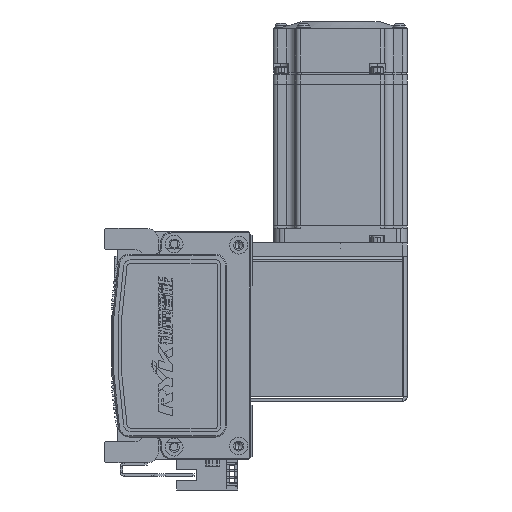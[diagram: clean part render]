
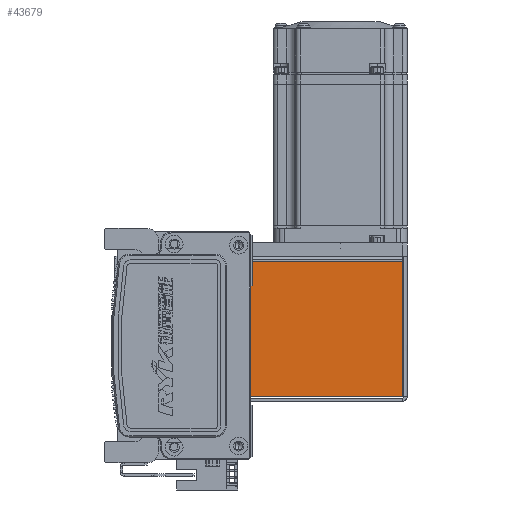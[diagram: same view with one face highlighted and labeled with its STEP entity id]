
A CAD part, left-side view. The second image highlights one B-rep face of the part: STEP entity #43679.
In plain terms, the highlighted planar face has unit normal (-1, 0, 0) as drawn and (0, 0, 1) by its records, which use the part's own axes.
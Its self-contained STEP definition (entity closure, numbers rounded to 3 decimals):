
#499 = VERTEX_POINT ( 'NONE', #4726 ) ;
#2811 = CARTESIAN_POINT ( 'NONE',  ( 0., 0., 35. ) ) ;
#2926 = CARTESIAN_POINT ( 'NONE',  ( 0., 72.5, 35. ) ) ;
#3205 = DIRECTION ( 'NONE',  ( 0., 1., 0. ) ) ;
#4726 = CARTESIAN_POINT ( 'NONE',  ( 30.263, 72.5, 35. ) ) ;
#5570 = LINE ( 'NONE', #2926, #41653 ) ;
#7915 = DIRECTION ( 'NONE',  ( -1., 0., 0. ) ) ;
#9530 = ORIENTED_EDGE ( 'NONE', *, *, #11408, .F. ) ;
#9728 = DIRECTION ( 'NONE',  ( 0., 1., 0. ) ) ;
#11408 = EDGE_CURVE ( 'NONE', #35128, #27230, #64333, .T. ) ;
#11715 = LINE ( 'NONE', #32732, #46884 ) ;
#12763 = CARTESIAN_POINT ( 'NONE',  ( -32.5, 0.737, 35. ) ) ;
#20345 = LINE ( 'NONE', #68313, #64532 ) ;
#26232 = EDGE_CURVE ( 'NONE', #27230, #52728, #11715, .T. ) ;
#27230 = VERTEX_POINT ( 'NONE', #33823 ) ;
#32732 = CARTESIAN_POINT ( 'NONE',  ( -30.293, 0., 35. ) ) ;
#33823 = CARTESIAN_POINT ( 'NONE',  ( -30.293, 0.737, 35. ) ) ;
#35128 = VERTEX_POINT ( 'NONE', #69619 ) ;
#39758 = ORIENTED_EDGE ( 'NONE', *, *, #42110, .T. ) ;
#41095 = ORIENTED_EDGE ( 'NONE', *, *, #47531, .T. ) ;
#41653 = VECTOR ( 'NONE', #7915, 1000. ) ;
#42110 = EDGE_CURVE ( 'NONE', #35128, #499, #20345, .T. ) ;
#43679 = ADVANCED_FACE ( 'NONE', ( #50865 ), #48954, .F. ) ;
#46884 = VECTOR ( 'NONE', #9728, 1000. ) ;
#47531 = EDGE_CURVE ( 'NONE', #499, #52728, #5570, .T. ) ;
#47624 = ORIENTED_EDGE ( 'NONE', *, *, #26232, .F. ) ;
#48954 = PLANE ( 'NONE',  #70833 ) ;
#50865 = FACE_OUTER_BOUND ( 'NONE', #68887, .T. ) ;
#52728 = VERTEX_POINT ( 'NONE', #68060 ) ;
#54448 = VECTOR ( 'NONE', #65425, 1000. ) ;
#64333 = LINE ( 'NONE', #12763, #54448 ) ;
#64532 = VECTOR ( 'NONE', #3205, 1000. ) ;
#65425 = DIRECTION ( 'NONE',  ( -1., 0., 0. ) ) ;
#66847 = DIRECTION ( 'NONE',  ( 0., 0., -1. ) ) ;
#68060 = CARTESIAN_POINT ( 'NONE',  ( -30.293, 72.5, 35. ) ) ;
#68313 = CARTESIAN_POINT ( 'NONE',  ( 30.263, 0.737, 35. ) ) ;
#68887 = EDGE_LOOP ( 'NONE', ( #39758, #41095, #47624, #9530 ) ) ;
#69619 = CARTESIAN_POINT ( 'NONE',  ( 30.263, 0.737, 35. ) ) ;
#70833 = AXIS2_PLACEMENT_3D ( 'NONE', #2811, #66847, #71441 ) ;
#71441 = DIRECTION ( 'NONE',  ( -1., 0., 0. ) ) ;
